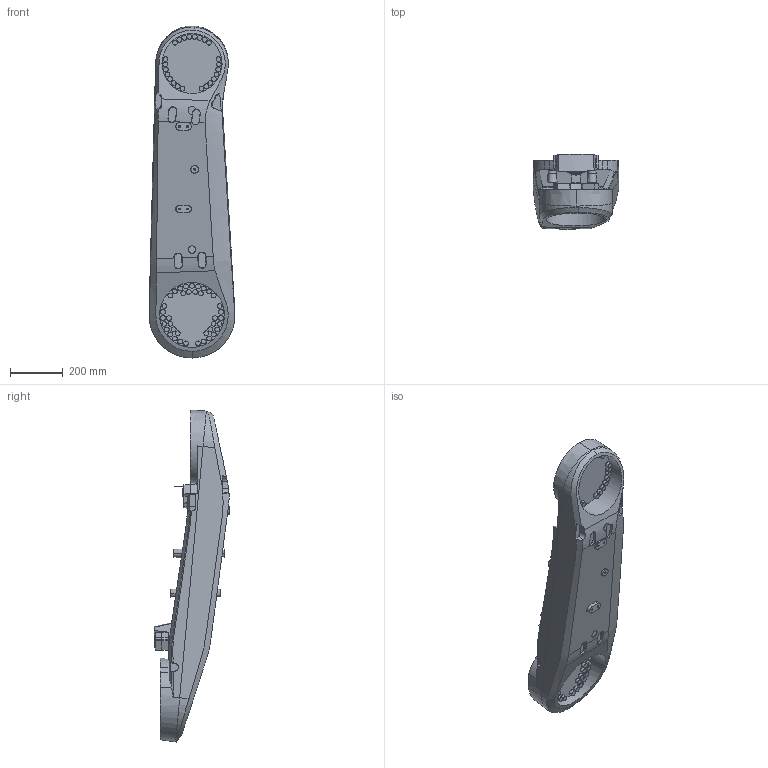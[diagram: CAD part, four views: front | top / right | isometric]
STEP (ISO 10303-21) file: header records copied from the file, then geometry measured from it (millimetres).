
FILE_DESCRIPTION (( 'STEP AP214' ), '1' );
FILE_NAME ('IRB5710_110kg-230_OmniCore_rev00_LINK02_CAD.step', '2025-07-09T15:50:57', ( '' ), ( '' ), 'SwSTEP 2.0', 'SolidWorks 2024', '' );
FILE_SCHEMA (( 'AUTOMOTIVE_DESIGN' ));
Length unit declared in the file: millimetre
Products named in the file (1): IRB5710_110kg-230_OmniCore_rev00_LINK02_CAD
Bounding box: 324.8 x 285 x 1254.29 mm (x, y, z)
Volume: 37932860.9 mm3; surface area: 1328563.2 mm2
Topology: 1 solids, 1 shells, 559 faces, 1338 edges, 863 vertices
Faces by surface type: plane 259, cylinder 185, cone 59, bspline 56
Entity records: 27075 total; most frequent: CARTESIAN_POINT 14247, ORIENTED_EDGE 2652, DIRECTION 2444, EDGE_CURVE 1326, AXIS2_PLACEMENT_3D 921, VERTEX_POINT 863, EDGE_LOOP 653, LINE 602
